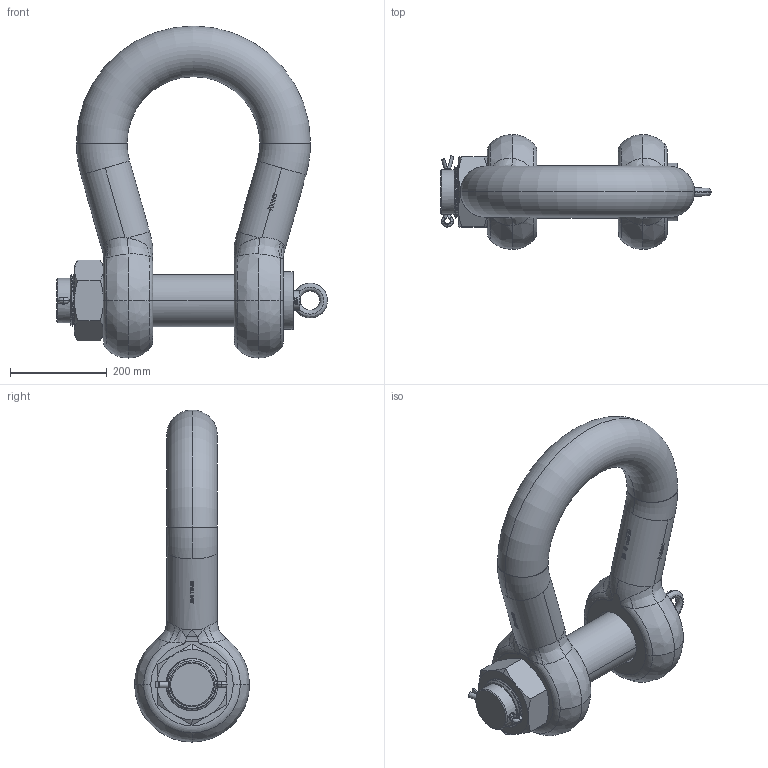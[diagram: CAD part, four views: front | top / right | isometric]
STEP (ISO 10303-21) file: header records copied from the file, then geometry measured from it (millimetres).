
FILE_DESCRIPTION(('STEP AP214'),'1');
FILE_NAME('hdsuhm0175.stp','2017-05-10T11:18:00',('TraceParts'),('TraceParts S.A.'),'Spatial InterOp 3D',' ',' ');
FILE_SCHEMA(('automotive_design'));
Length unit declared in the file: millimetre
Products named in the file (5): HDSUHM0175|HDSUHM0175_1#HDSUHM0175_1;MANIFOLD_SOLID_BREP #20123; HDSUHM0175|HDSUHM0175_1#HDSUHM0175_2;MANIFOLD_SOLID_BREP #36147; hdsuhm0175_3; hdsuhm0175_4; hdsuhm0175_5
Bounding box: 561 x 238 x 688 mm (x, y, z)
Volume: 19911257.5 mm3; surface area: 944613.1 mm2
Topology: 5 solids, 5 shells, 1224 faces, 4708 edges, 3542 vertices
Faces by surface type: bspline 435, plane 422, cylinder 305, torus 36, cone 26
Entity records: 92916 total; most frequent: CARTESIAN_POINT 50850, ORIENTED_EDGE 9412, EDGE_CURVE 4706, VERTEX_POINT 3542, B_SPLINE_CURVE_WITH_KNOTS 3429, DIRECTION 2908, EDGE_LOOP 1284, STYLED_ITEM 1229
